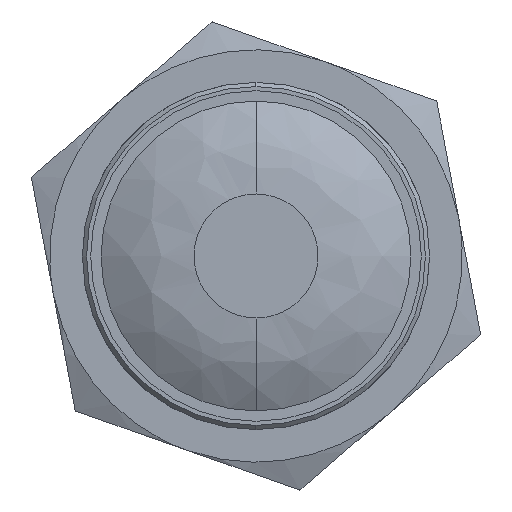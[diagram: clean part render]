
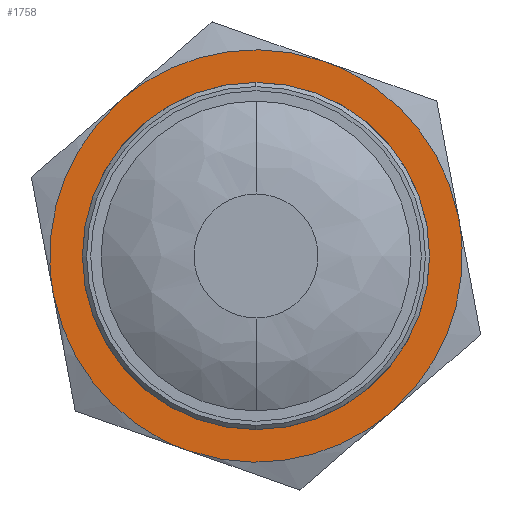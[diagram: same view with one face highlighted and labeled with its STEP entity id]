
A CAD part, left-side view. The second image highlights one B-rep face of the part: STEP entity #1758.
In plain terms, the highlighted planar face has unit normal (-1, 0, 0) as drawn and (1, 0, 0) by its records, which use the part's own axes.
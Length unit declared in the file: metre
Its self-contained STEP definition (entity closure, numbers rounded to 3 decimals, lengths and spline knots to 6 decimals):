
#23 = CARTESIAN_POINT ( 'NONE',  ( 0.0075, -0.021607, 0.012475 ) ) ;
#75 = CARTESIAN_POINT ( 'NONE',  ( 0.0075, 0.021607, -0.012475 ) ) ;
#80 = CARTESIAN_POINT ( 'NONE',  ( 0.0075, -0.026174, 0.004566 ) ) ;
#83 = EDGE_CURVE ( 'NONE', #1076, #1990, #1666, .T. ) ;
#116 = CARTESIAN_POINT ( 'NONE',  ( 0.0075, -0.021607, -0.012475 ) ) ;
#128 = CARTESIAN_POINT ( 'NONE',  ( 0.0075, 0.026174, 0.004566 ) ) ;
#146 = AXIS2_PLACEMENT_3D ( 'NONE', #1579, #567, #1764 ) ;
#155 = VERTEX_POINT ( 'NONE', #116 ) ;
#183 = ORIENTED_EDGE ( 'NONE', *, *, #83, .F. ) ;
#197 = PLANE ( 'NONE',  #1260 ) ;
#198 = DIRECTION ( 'NONE',  ( 1., 0., 0. ) ) ;
#207 = VERTEX_POINT ( 'NONE', #23 ) ;
#231 = CARTESIAN_POINT ( 'NONE',  ( 0.0075, 0., 0.02495 ) ) ;
#241 = CARTESIAN_POINT ( 'NONE',  ( 0.0075, -0.026174, -0.004566 ) ) ;
#250 = CARTESIAN_POINT ( 'NONE',  ( 0.0075, -0.021607, -0.012475 ) ) ;
#293 = CARTESIAN_POINT ( 'NONE',  ( 0.0075, 0.01704, 0.020386 ) ) ;
#295 =( BOUNDED_CURVE ( )  B_SPLINE_CURVE ( 3, ( #75, #1959, #128, #1294 ),
 .UNSPECIFIED., .F., .F. ) 
 B_SPLINE_CURVE_WITH_KNOTS ( ( 4, 4 ),
 ( 0., 0.026023 ),
 .UNSPECIFIED. ) 
 CURVE ( )  GEOMETRIC_REPRESENTATION_ITEM ( )  RATIONAL_B_SPLINE_CURVE ( ( 0.998, 0.909, 0.909, 0.998 ) ) 
 REPRESENTATION_ITEM ( '' )  );
#362 = DIRECTION ( 'NONE',  ( 1., 0., 0. ) ) ;
#384 = AXIS2_PLACEMENT_3D ( 'NONE', #1200, #198, #1359 ) ;
#394 = CARTESIAN_POINT ( 'NONE',  ( 0.0075, 0., -0.02495 ) ) ;
#451 = CARTESIAN_POINT ( 'NONE',  ( 0.0075, -0.021607, 0.012475 ) ) ;
#472 = ORIENTED_EDGE ( 'NONE', *, *, #1310, .T. ) ;
#502 = EDGE_CURVE ( 'NONE', #207, #155, #1785, .T. ) ;
#512 = CARTESIAN_POINT ( 'NONE',  ( 0.0075, 0.021607, -0.012475 ) ) ;
#567 = DIRECTION ( 'NONE',  ( 1., 0., 0. ) ) ;
#660 = EDGE_LOOP ( 'NONE', ( #183, #946 ) ) ;
#715 = CARTESIAN_POINT ( 'NONE',  ( 0.0075, -0.017041, -0.020384 ) ) ;
#743 = EDGE_CURVE ( 'NONE', #1057, #207, #1237, .T. ) ;
#753 = VERTEX_POINT ( 'NONE', #1593 ) ;
#786 = CARTESIAN_POINT ( 'NONE',  ( 0.0075, 0.021607, 0.012475 ) ) ;
#794 = CARTESIAN_POINT ( 'NONE',  ( 0.0075, 0.00913, 0.02495 ) ) ;
#863 = EDGE_CURVE ( 'NONE', #753, #1057, #1848, .T. ) ;
#864 = CARTESIAN_POINT ( 'NONE',  ( 0.0075, -0.025249, 0.025249 ) ) ;
#869 = CARTESIAN_POINT ( 'NONE',  ( 0.0075, 0.009132, -0.02495 ) ) ;
#892 = CARTESIAN_POINT ( 'NONE',  ( 0.0075, 0.021607, -0.012475 ) ) ;
#946 = ORIENTED_EDGE ( 'NONE', *, *, #1243, .F. ) ;
#999 = VERTEX_POINT ( 'NONE', #892 ) ;
#1057 = VERTEX_POINT ( 'NONE', #231 ) ;
#1076 = VERTEX_POINT ( 'NONE', #1244 ) ;
#1087 = EDGE_CURVE ( 'NONE', #999, #753, #295, .T. ) ;
#1117 = FACE_BOUND ( 'NONE', #660, .T. ) ;
#1123 = EDGE_LOOP ( 'NONE', ( #1677, #2022, #1694, #472, #1854, #1183 ) ) ;
#1136 =( BOUNDED_CURVE ( )  B_SPLINE_CURVE ( 3, ( #2040, #869, #1524, #512 ),
 .UNSPECIFIED., .F., .F. ) 
 B_SPLINE_CURVE_WITH_KNOTS ( ( 4, 4 ),
 ( 0., 0.026023 ),
 .UNSPECIFIED. ) 
 CURVE ( )  GEOMETRIC_REPRESENTATION_ITEM ( )  RATIONAL_B_SPLINE_CURVE ( ( 0.998, 0.909, 0.909, 0.998 ) ) 
 REPRESENTATION_ITEM ( '' )  );
#1155 = CARTESIAN_POINT ( 'NONE',  ( 0.0075, -0.021, 0. ) ) ;
#1183 = ORIENTED_EDGE ( 'NONE', *, *, #863, .T. ) ;
#1200 = CARTESIAN_POINT ( 'NONE',  ( 0.0075, 0., 0. ) ) ;
#1237 =( BOUNDED_CURVE ( )  B_SPLINE_CURVE ( 3, ( #1956, #2133, #1445, #451 ),
 .UNSPECIFIED., .F., .F. ) 
 B_SPLINE_CURVE_WITH_KNOTS ( ( 4, 4 ),
 ( 0., 0.026023 ),
 .UNSPECIFIED. ) 
 CURVE ( )  GEOMETRIC_REPRESENTATION_ITEM ( )  RATIONAL_B_SPLINE_CURVE ( ( 0.998, 0.909, 0.909, 0.998 ) ) 
 REPRESENTATION_ITEM ( '' )  );
#1243 = EDGE_CURVE ( 'NONE', #1990, #1076, #1688, .T. ) ;
#1244 = CARTESIAN_POINT ( 'NONE',  ( 0.0075, 0.021, 0. ) ) ;
#1249 = CARTESIAN_POINT ( 'NONE',  ( 0.0075, 0., -0.02495 ) ) ;
#1260 = AXIS2_PLACEMENT_3D ( 'NONE', #864, #362, #1517 ) ;
#1294 = CARTESIAN_POINT ( 'NONE',  ( 0.0075, 0.021607, 0.012475 ) ) ;
#1310 = EDGE_CURVE ( 'NONE', #1424, #999, #1136, .T. ) ;
#1359 = DIRECTION ( 'NONE',  ( 0., 1., 0. ) ) ;
#1389 = CARTESIAN_POINT ( 'NONE',  ( 0.0075, -0.009132, -0.02495 ) ) ;
#1390 = CARTESIAN_POINT ( 'NONE',  ( 0.0075, -0.021607, 0.012475 ) ) ;
#1409 = EDGE_CURVE ( 'NONE', #155, #1424, #1763, .T. ) ;
#1424 = VERTEX_POINT ( 'NONE', #1249 ) ;
#1445 = CARTESIAN_POINT ( 'NONE',  ( 0.0075, -0.017041, 0.020384 ) ) ;
#1517 = DIRECTION ( 'NONE',  ( 0., 0., -1. ) ) ;
#1524 = CARTESIAN_POINT ( 'NONE',  ( 0.0075, 0.017041, -0.020384 ) ) ;
#1579 = CARTESIAN_POINT ( 'NONE',  ( 0.0075, 0., 0. ) ) ;
#1593 = CARTESIAN_POINT ( 'NONE',  ( 0.0075, 0.021607, 0.012475 ) ) ;
#1666 = CIRCLE ( 'NONE', #146, 0.021 ) ;
#1677 = ORIENTED_EDGE ( 'NONE', *, *, #743, .T. ) ;
#1688 = CIRCLE ( 'NONE', #384, 0.021 ) ;
#1694 = ORIENTED_EDGE ( 'NONE', *, *, #1409, .T. ) ;
#1758 = ADVANCED_FACE ( 'NONE', ( #1117, #2012 ), #197, .T. ) ;
#1763 =( BOUNDED_CURVE ( )  B_SPLINE_CURVE ( 3, ( #1879, #715, #1389, #394 ),
 .UNSPECIFIED., .F., .F. ) 
 B_SPLINE_CURVE_WITH_KNOTS ( ( 4, 4 ),
 ( 0., 0.026023 ),
 .UNSPECIFIED. ) 
 CURVE ( )  GEOMETRIC_REPRESENTATION_ITEM ( )  RATIONAL_B_SPLINE_CURVE ( ( 0.998, 0.909, 0.909, 0.998 ) ) 
 REPRESENTATION_ITEM ( '' )  );
#1764 = DIRECTION ( 'NONE',  ( 0., 1., 0. ) ) ;
#1785 =( BOUNDED_CURVE ( )  B_SPLINE_CURVE ( 3, ( #1390, #80, #241, #250 ),
 .UNSPECIFIED., .F., .F. ) 
 B_SPLINE_CURVE_WITH_KNOTS ( ( 4, 4 ),
 ( 0., 0.026023 ),
 .UNSPECIFIED. ) 
 CURVE ( )  GEOMETRIC_REPRESENTATION_ITEM ( )  RATIONAL_B_SPLINE_CURVE ( ( 0.998, 0.909, 0.909, 0.998 ) ) 
 REPRESENTATION_ITEM ( '' )  );
#1848 =( BOUNDED_CURVE ( )  B_SPLINE_CURVE ( 3, ( #786, #293, #794, #1965 ),
 .UNSPECIFIED., .F., .F. ) 
 B_SPLINE_CURVE_WITH_KNOTS ( ( 4, 4 ),
 ( 0., 0.026023 ),
 .UNSPECIFIED. ) 
 CURVE ( )  GEOMETRIC_REPRESENTATION_ITEM ( )  RATIONAL_B_SPLINE_CURVE ( ( 0.998, 0.91, 0.91, 1. ) ) 
 REPRESENTATION_ITEM ( '' )  );
#1854 = ORIENTED_EDGE ( 'NONE', *, *, #1087, .T. ) ;
#1879 = CARTESIAN_POINT ( 'NONE',  ( 0.0075, -0.021607, -0.012475 ) ) ;
#1956 = CARTESIAN_POINT ( 'NONE',  ( 0.0075, 0., 0.02495 ) ) ;
#1959 = CARTESIAN_POINT ( 'NONE',  ( 0.0075, 0.026174, -0.004566 ) ) ;
#1965 = CARTESIAN_POINT ( 'NONE',  ( 0.0075, 0., 0.02495 ) ) ;
#1990 = VERTEX_POINT ( 'NONE', #1155 ) ;
#2012 = FACE_OUTER_BOUND ( 'NONE', #1123, .T. ) ;
#2022 = ORIENTED_EDGE ( 'NONE', *, *, #502, .T. ) ;
#2040 = CARTESIAN_POINT ( 'NONE',  ( 0.0075, 0., -0.02495 ) ) ;
#2133 = CARTESIAN_POINT ( 'NONE',  ( 0.0075, -0.009132, 0.02495 ) ) ;
